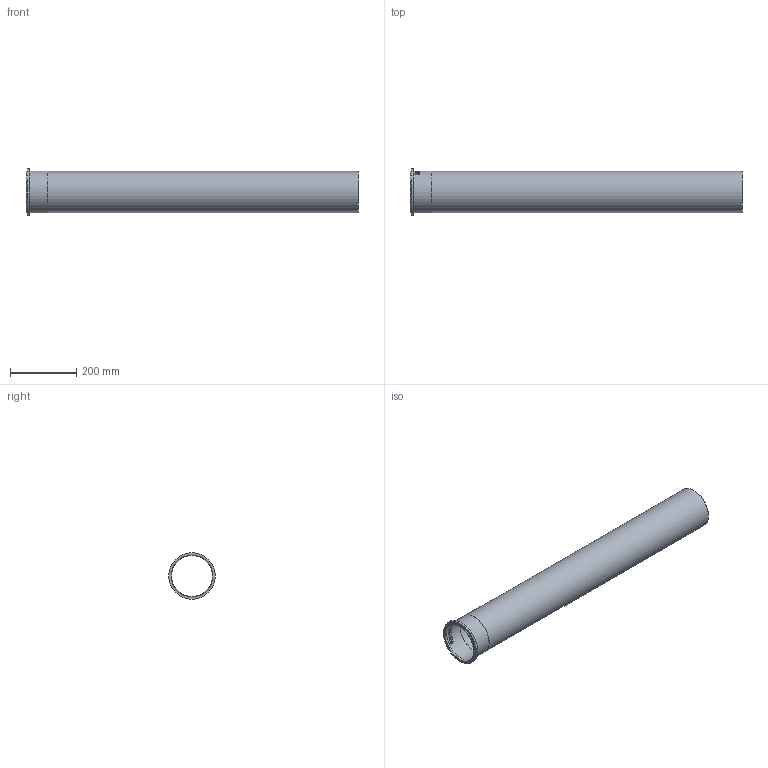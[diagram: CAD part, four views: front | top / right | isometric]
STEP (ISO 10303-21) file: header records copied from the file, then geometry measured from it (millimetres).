
FILE_DESCRIPTION((''),'2;1');
FILE_NAME('I:\WATTS\3D_CAD\3D_CAD_Models\Blucher_Drains\P_StraightPipe\WebsiteFiles\3D\STEP\P5-3.3-316.stp','2009-12-02T14:26:28',('menesek'),(''),'Autodesk Inventor 2010','Autodesk Inventor 2010','');
FILE_SCHEMA(('AUTOMOTIVE_DESIGN { 1 0 10303 214 1 1 1 1 }'));
Length unit declared in the file: inch
Products named in the file (1): P5-3.3-316
Bounding box: 1000 x 139.95 x 139.95 mm (x, y, z)
Volume: 427102.2 mm3; surface area: 786438.8 mm2
Topology: 1 solids, 1 shells, 109 faces, 285 edges, 190 vertices
Faces by surface type: plane 59, bspline 34, cylinder 16
Full cylindrical faces by diameter (mm): 122.936 x1, 124.968 x1, 125.984 x2, 139.954 x1
Entity records: 13939 total; most frequent: CARTESIAN_POINT 11561, ORIENTED_EDGE 548, DIRECTION 356, EDGE_CURVE 274, VERTEX_POINT 186, EDGE_LOOP 128, AXIS2_PLACEMENT_3D 120, VECTOR 116
